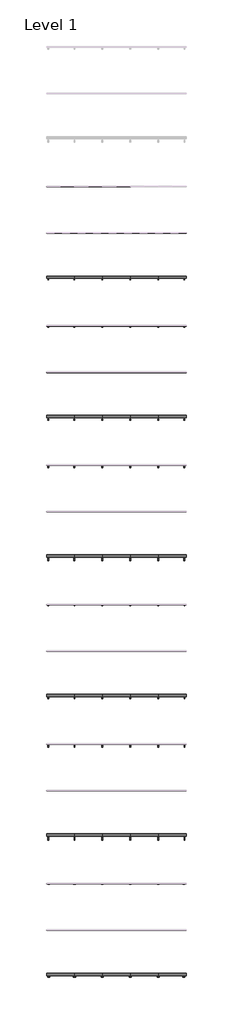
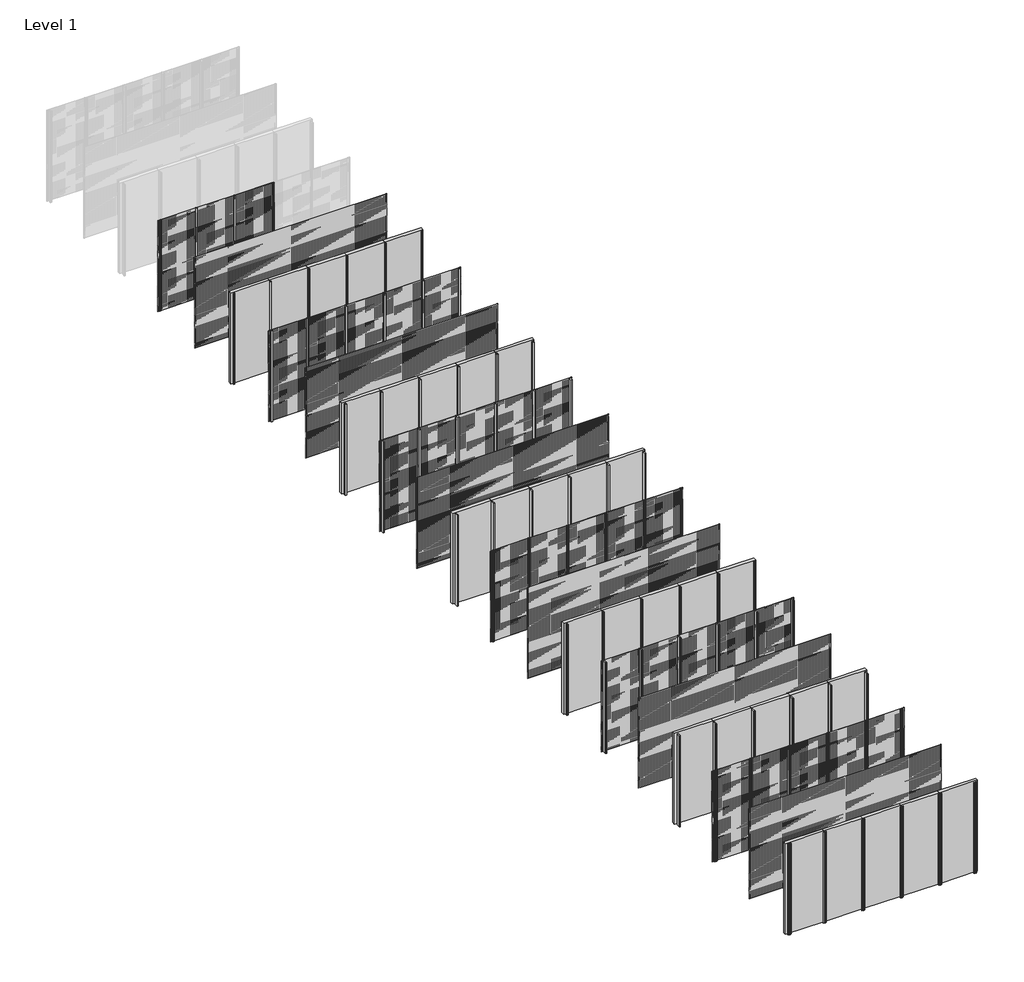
# One storey, part 1 of 77: 70 members, 64 plates.
"""IFC4 building model written with IfcOpenShell, lengths in millimetres."""

from ifc_helpers import new_model, si_unit, origin, origin_with_axes, place, context, project, spatial, polyline, outline, extrude, transform, mapped, element, save
from components import rectangular_mullion_3facce28, rectangular_mullion_6cf2c509, rectangular_mullion_8b77bd57, rectangular_mullion_2c867e25, rectangular_mullion_7803f5c4, rectangular_mullion_82152e2f, rectangular_mullion_2b84ad7e, rectangular_mullion_0fd695e7, rectangular_mullion_9b796d85, rectangular_mullion_dfb17e98, rectangular_mullion_6132f1f1, rectangular_mullion_8f153c19, rectangular_mullion_5b30f3fd, rectangular_mullion_5e0e8e0a, rectangular_mullion_d2d38772, rectangular_mullion_efb80f74, rectangular_mullion_aaa1fb1b, rectangular_mullion_ea9d012c, empty_system_panel_empty_aabbdda4

model = new_model("IFC4")

# Units and contexts
model_context = context("Model", 3, world=origin())
ifc_project = project(units=[si_unit("LENGTHUNIT", "METRE", prefix="MILLI")], contexts=[model_context])

# Site, building, storey
site = spatial("IfcSite", under=ifc_project)
building = spatial("IfcBuilding", under=site)
storey = spatial("IfcBuildingStorey", under=building, Name="Level 1", Elevation=0.0)

# Members
placement = place(None, origin())
rectangular_mullion_shape = rectangular_mullion_3facce28(model_context)
element("IfcMember", 1, ObjectType="Rectangular Mullion : NLRS_21_CWM_drager SD.014_Storax", at=placement, inside=storey, context=model_context, shape_type="MappedRepresentation", body=[
    mapped(rectangular_mullion_shape, transform((3600.0, -24000.0, 0.0), x_axis=(-1.0, 0.0, 0.0), y_axis=(0.0, 1.0, 0.0), z_axis=(0.0, 0.0, -1.0))),
])
element("IfcMember", 2, ObjectType="Rectangular Mullion : NLRS_21_CWM_drager SD.014_Storax", at=placement, inside=storey, context=model_context, shape_type="MappedRepresentation", body=[
    mapped(rectangular_mullion_shape, transform((2400.0, -24000.0, 0.0), x_axis=(-1.0, 0.0, 0.0), y_axis=(0.0, 1.0, 0.0), z_axis=(0.0, 0.0, -1.0))),
])
element("IfcMember", 3, ObjectType="Rectangular Mullion : NLRS_21_CWM_drager SD.014_Storax", at=placement, inside=storey, context=model_context, shape_type="MappedRepresentation", body=[
    mapped(rectangular_mullion_shape, transform((1200.0, -24000.0, 0.0), x_axis=(-1.0, 0.0, 0.0), y_axis=(0.0, 1.0, 0.0), z_axis=(0.0, 0.0, -1.0))),
])
element("IfcMember", 4, ObjectType="Rectangular Mullion : NLRS_21_CWM_drager SD.014_Storax", at=placement, inside=storey, context=model_context, shape_type="MappedRepresentation", body=[
    mapped(rectangular_mullion_shape, transform((4800.0, -28000.0, 0.0), x_axis=(-1.0, 0.0, 0.0), y_axis=(0.0, 1.0, 0.0), z_axis=(0.0, 0.0, -1.0))),
])
element("IfcMember", 5, ObjectType="Rectangular Mullion : NLRS_21_CWM_drager SD.014_Storax", at=placement, inside=storey, context=model_context, shape_type="MappedRepresentation", body=[
    mapped(rectangular_mullion_shape, transform((3600.0, -28000.0, 0.0), x_axis=(-1.0, 0.0, 0.0), y_axis=(0.0, 1.0, 0.0), z_axis=(0.0, 0.0, -1.0))),
])
element("IfcMember", 6, ObjectType="Rectangular Mullion : NLRS_21_CWM_drager SD.014_Storax", at=placement, inside=storey, context=model_context, shape_type="MappedRepresentation", body=[
    mapped(rectangular_mullion_shape, transform((2400.0, -28000.0, 0.0), x_axis=(-1.0, 0.0, 0.0), y_axis=(0.0, 1.0, 0.0), z_axis=(0.0, 0.0, -1.0))),
])
element("IfcMember", 7, ObjectType="Rectangular Mullion : NLRS_21_CWM_drager SD.014_Storax", at=placement, inside=storey, context=model_context, shape_type="MappedRepresentation", body=[
    mapped(rectangular_mullion_shape, transform((1200.0, -28000.0, 0.0), x_axis=(-1.0, 0.0, 0.0), y_axis=(0.0, 1.0, 0.0), z_axis=(0.0, 0.0, -1.0))),
])
rectangular_mullion_2_shape = rectangular_mullion_6cf2c509(model_context)
element("IfcMember", 8, ObjectType="Rectangular Mullion : NLRS_21_CWM_drager SD.054_Storax", at=placement, inside=storey, context=model_context, shape_type="MappedRepresentation", body=[
    mapped(rectangular_mullion_2_shape, transform((4800.0, -30000.0, 0.0), x_axis=(-1.0, 0.0, 0.0), y_axis=(0.0, 1.0, 0.0), z_axis=(0.0, 0.0, -1.0))),
])
element("IfcMember", 9, ObjectType="Rectangular Mullion : NLRS_21_CWM_drager SD.054_Storax", at=placement, inside=storey, context=model_context, shape_type="MappedRepresentation", body=[
    mapped(rectangular_mullion_2_shape, transform((3600.0, -30000.0, 0.0), x_axis=(-1.0, 0.0, 0.0), y_axis=(0.0, 1.0, 0.0), z_axis=(0.0, 0.0, -1.0))),
])
element("IfcMember", 10, ObjectType="Rectangular Mullion : NLRS_21_CWM_drager SD.054_Storax", at=placement, inside=storey, context=model_context, shape_type="MappedRepresentation", body=[
    mapped(rectangular_mullion_2_shape, transform((2400.0, -30000.0, 0.0), x_axis=(-1.0, 0.0, 0.0), y_axis=(0.0, 1.0, 0.0), z_axis=(0.0, 0.0, -1.0))),
])
element("IfcMember", 11, ObjectType="Rectangular Mullion : NLRS_21_CWM_drager SD.054_Storax", at=placement, inside=storey, context=model_context, shape_type="MappedRepresentation", body=[
    mapped(rectangular_mullion_2_shape, transform((1200.0, -30000.0, 0.0), x_axis=(-1.0, 0.0, 0.0), y_axis=(0.0, 1.0, 0.0), z_axis=(0.0, 0.0, -1.0))),
])
element("IfcMember", 12, ObjectType="Rectangular Mullion : NLRS_21_CWM_drager SD.054_Storax", at=placement, inside=storey, context=model_context, shape_type="MappedRepresentation", body=[
    mapped(rectangular_mullion_2_shape, transform((4800.0, -34000.0, 0.0), x_axis=(-1.0, 0.0, 0.0), y_axis=(0.0, 1.0, 0.0), z_axis=(0.0, 0.0, -1.0))),
])
element("IfcMember", 13, ObjectType="Rectangular Mullion : NLRS_21_CWM_drager SD.054_Storax", at=placement, inside=storey, context=model_context, shape_type="MappedRepresentation", body=[
    mapped(rectangular_mullion_2_shape, transform((3600.0, -34000.0, 0.0), x_axis=(-1.0, 0.0, 0.0), y_axis=(0.0, 1.0, 0.0), z_axis=(0.0, 0.0, -1.0))),
])
element("IfcMember", 14, ObjectType="Rectangular Mullion : NLRS_21_CWM_drager SD.054_Storax", at=placement, inside=storey, context=model_context, shape_type="MappedRepresentation", body=[
    mapped(rectangular_mullion_2_shape, transform((2400.0, -34000.0, 0.0), x_axis=(-1.0, 0.0, 0.0), y_axis=(0.0, 1.0, 0.0), z_axis=(0.0, 0.0, -1.0))),
])
element("IfcMember", 15, ObjectType="Rectangular Mullion : NLRS_21_CWM_drager SD.054_Storax", at=placement, inside=storey, context=model_context, shape_type="MappedRepresentation", body=[
    mapped(rectangular_mullion_2_shape, transform((1200.0, -34000.0, 0.0), x_axis=(-1.0, 0.0, 0.0), y_axis=(0.0, 1.0, 0.0), z_axis=(0.0, 0.0, -1.0))),
])
rectangular_mullion_3_shape = rectangular_mullion_8b77bd57(model_context)
element("IfcMember", 16, ObjectType="Rectangular Mullion : NLRS_21_CWM_drager SD.100_Storax", at=placement, inside=storey, context=model_context, shape_type="MappedRepresentation", body=[
    mapped(rectangular_mullion_3_shape, transform((4800.0, -36000.0, 0.0), x_axis=(-1.0, 0.0, 0.0), y_axis=(0.0, 1.0, 0.0), z_axis=(0.0, 0.0, -1.0))),
])
element("IfcMember", 17, ObjectType="Rectangular Mullion : NLRS_21_CWM_drager SD.100_Storax", at=placement, inside=storey, context=model_context, shape_type="MappedRepresentation", body=[
    mapped(rectangular_mullion_3_shape, transform((3600.0, -36000.0, 0.0), x_axis=(-1.0, 0.0, 0.0), y_axis=(0.0, 1.0, 0.0), z_axis=(0.0, 0.0, -1.0))),
])
element("IfcMember", 18, ObjectType="Rectangular Mullion : NLRS_21_CWM_drager SD.100_Storax", at=placement, inside=storey, context=model_context, shape_type="MappedRepresentation", body=[
    mapped(rectangular_mullion_3_shape, transform((2400.0, -36000.0, 0.0), x_axis=(-1.0, 0.0, 0.0), y_axis=(0.0, 1.0, 0.0), z_axis=(0.0, 0.0, -1.0))),
])
element("IfcMember", 19, ObjectType="Rectangular Mullion : NLRS_21_CWM_drager SD.100_Storax", at=placement, inside=storey, context=model_context, shape_type="MappedRepresentation", body=[
    mapped(rectangular_mullion_3_shape, transform((1200.0, -36000.0, 0.0), x_axis=(-1.0, 0.0, 0.0), y_axis=(0.0, 1.0, 0.0), z_axis=(0.0, 0.0, -1.0))),
])
element("IfcMember", 20, ObjectType="Rectangular Mullion : NLRS_21_CWM_drager SD.100_Storax", at=placement, inside=storey, context=model_context, shape_type="MappedRepresentation", body=[
    mapped(rectangular_mullion_3_shape, transform((4800.0, -40000.0, 0.0), x_axis=(-1.0, 0.0, 0.0), y_axis=(0.0, 1.0, 0.0), z_axis=(0.0, 0.0, -1.0))),
])
element("IfcMember", 21, ObjectType="Rectangular Mullion : NLRS_21_CWM_drager SD.100_Storax", at=placement, inside=storey, context=model_context, shape_type="MappedRepresentation", body=[
    mapped(rectangular_mullion_3_shape, transform((3600.0, -40000.0, 0.0), x_axis=(-1.0, 0.0, 0.0), y_axis=(0.0, 1.0, 0.0), z_axis=(0.0, 0.0, -1.0))),
])
element("IfcMember", 22, ObjectType="Rectangular Mullion : NLRS_21_CWM_drager SD.100_Storax", at=placement, inside=storey, context=model_context, shape_type="MappedRepresentation", body=[
    mapped(rectangular_mullion_3_shape, transform((2400.0, -40000.0, 0.0), x_axis=(-1.0, 0.0, 0.0), y_axis=(0.0, 1.0, 0.0), z_axis=(0.0, 0.0, -1.0))),
])
element("IfcMember", 23, ObjectType="Rectangular Mullion : NLRS_21_CWM_drager SD.100_Storax", at=placement, inside=storey, context=model_context, shape_type="MappedRepresentation", body=[
    mapped(rectangular_mullion_3_shape, transform((1200.0, -40000.0, 0.0), x_axis=(-1.0, 0.0, 0.0), y_axis=(0.0, 1.0, 0.0), z_axis=(0.0, 0.0, -1.0))),
])
rectangular_mullion_4_shape = rectangular_mullion_2c867e25(model_context)
element("IfcMember", 24, ObjectType="Rectangular Mullion : NLRS_21_CWM_drager LD.0440_Storax", at=placement, inside=storey, context=model_context, shape_type="MappedRepresentation", body=[
    mapped(rectangular_mullion_4_shape, transform((4800.0, -42000.0, 0.0), x_axis=(-1.0, 0.0, 0.0), y_axis=(0.0, 1.0, 0.0), z_axis=(0.0, 0.0, -1.0))),
])
element("IfcMember", 25, ObjectType="Rectangular Mullion : NLRS_21_CWM_drager LD.0440_Storax", at=placement, inside=storey, context=model_context, shape_type="MappedRepresentation", body=[
    mapped(rectangular_mullion_4_shape, transform((3600.0, -42000.0, 0.0), x_axis=(-1.0, 0.0, 0.0), y_axis=(0.0, 1.0, 0.0), z_axis=(0.0, 0.0, -1.0))),
])
element("IfcMember", 26, ObjectType="Rectangular Mullion : NLRS_21_CWM_drager LD.0440_Storax", at=placement, inside=storey, context=model_context, shape_type="MappedRepresentation", body=[
    mapped(rectangular_mullion_4_shape, transform((2400.0, -42000.0, 0.0), x_axis=(-1.0, 0.0, 0.0), y_axis=(0.0, 1.0, 0.0), z_axis=(0.0, 0.0, -1.0))),
])
element("IfcMember", 27, ObjectType="Rectangular Mullion : NLRS_21_CWM_drager LD.0440_Storax", at=placement, inside=storey, context=model_context, shape_type="MappedRepresentation", body=[
    mapped(rectangular_mullion_4_shape, transform((1200.0, -42000.0, 0.0), x_axis=(-1.0, 0.0, 0.0), y_axis=(0.0, 1.0, 0.0), z_axis=(0.0, 0.0, -1.0))),
])
element("IfcMember", 28, ObjectType="Rectangular Mullion : NLRS_21_CWM_drager LD.0440_Storax", at=placement, inside=storey, context=model_context, shape_type="MappedRepresentation", body=[
    mapped(rectangular_mullion_4_shape, transform((4800.0, -46000.0, 0.0), x_axis=(-1.0, 0.0, 0.0), y_axis=(0.0, 1.0, 0.0), z_axis=(0.0, 0.0, -1.0))),
])
element("IfcMember", 29, ObjectType="Rectangular Mullion : NLRS_21_CWM_drager LD.0440_Storax", at=placement, inside=storey, context=model_context, shape_type="MappedRepresentation", body=[
    mapped(rectangular_mullion_4_shape, transform((3600.0, -46000.0, 0.0), x_axis=(-1.0, 0.0, 0.0), y_axis=(0.0, 1.0, 0.0), z_axis=(0.0, 0.0, -1.0))),
])
element("IfcMember", 30, ObjectType="Rectangular Mullion : NLRS_21_CWM_drager LD.0440_Storax", at=placement, inside=storey, context=model_context, shape_type="MappedRepresentation", body=[
    mapped(rectangular_mullion_4_shape, transform((2400.0, -46000.0, 0.0), x_axis=(-1.0, 0.0, 0.0), y_axis=(0.0, 1.0, 0.0), z_axis=(0.0, 0.0, -1.0))),
])
element("IfcMember", 31, ObjectType="Rectangular Mullion : NLRS_21_CWM_drager LD.0440_Storax", at=placement, inside=storey, context=model_context, shape_type="MappedRepresentation", body=[
    mapped(rectangular_mullion_4_shape, transform((1200.0, -46000.0, 0.0), x_axis=(-1.0, 0.0, 0.0), y_axis=(0.0, 1.0, 0.0), z_axis=(0.0, 0.0, -1.0))),
])
rectangular_mullion_5_shape = rectangular_mullion_7803f5c4(model_context)
element("IfcMember", 32, ObjectType="Rectangular Mullion : NLRS_21_CWM_drager LD.1250_Storax", at=placement, inside=storey, context=model_context, shape_type="MappedRepresentation", body=[
    mapped(rectangular_mullion_5_shape, transform((4800.0, -48000.0, 0.0), x_axis=(-1.0, 0.0, 0.0), y_axis=(0.0, 1.0, 0.0), z_axis=(0.0, 0.0, -1.0))),
])
element("IfcMember", 33, ObjectType="Rectangular Mullion : NLRS_21_CWM_drager LD.1250_Storax", at=placement, inside=storey, context=model_context, shape_type="MappedRepresentation", body=[
    mapped(rectangular_mullion_5_shape, transform((3600.0, -48000.0, 0.0), x_axis=(-1.0, 0.0, 0.0), y_axis=(0.0, 1.0, 0.0), z_axis=(0.0, 0.0, -1.0))),
])
element("IfcMember", 34, ObjectType="Rectangular Mullion : NLRS_21_CWM_drager LD.1250_Storax", at=placement, inside=storey, context=model_context, shape_type="MappedRepresentation", body=[
    mapped(rectangular_mullion_5_shape, transform((2400.0, -48000.0, 0.0), x_axis=(-1.0, 0.0, 0.0), y_axis=(0.0, 1.0, 0.0), z_axis=(0.0, 0.0, -1.0))),
])
element("IfcMember", 35, ObjectType="Rectangular Mullion : NLRS_21_CWM_drager LD.1250_Storax", at=placement, inside=storey, context=model_context, shape_type="MappedRepresentation", body=[
    mapped(rectangular_mullion_5_shape, transform((1200.0, -48000.0, 0.0), x_axis=(-1.0, 0.0, 0.0), y_axis=(0.0, 1.0, 0.0), z_axis=(0.0, 0.0, -1.0))),
])
element("IfcMember", 36, ObjectType="Rectangular Mullion : NLRS_21_CWM_drager LD.1250_Storax", at=placement, inside=storey, context=model_context, shape_type="MappedRepresentation", body=[
    mapped(rectangular_mullion_5_shape, transform((4800.0, -52000.0, 0.0), x_axis=(-1.0, 0.0, 0.0), y_axis=(0.0, 1.0, 0.0), z_axis=(0.0, 0.0, -1.0))),
])
element("IfcMember", 37, ObjectType="Rectangular Mullion : NLRS_21_CWM_drager LD.1250_Storax", at=placement, inside=storey, context=model_context, shape_type="MappedRepresentation", body=[
    mapped(rectangular_mullion_5_shape, transform((3600.0, -52000.0, 0.0), x_axis=(-1.0, 0.0, 0.0), y_axis=(0.0, 1.0, 0.0), z_axis=(0.0, 0.0, -1.0))),
])
element("IfcMember", 38, ObjectType="Rectangular Mullion : NLRS_21_CWM_drager LD.1250_Storax", at=placement, inside=storey, context=model_context, shape_type="MappedRepresentation", body=[
    mapped(rectangular_mullion_5_shape, transform((2400.0, -52000.0, 0.0), x_axis=(-1.0, 0.0, 0.0), y_axis=(0.0, 1.0, 0.0), z_axis=(0.0, 0.0, -1.0))),
])
element("IfcMember", 39, ObjectType="Rectangular Mullion : NLRS_21_CWM_drager LD.1250_Storax", at=placement, inside=storey, context=model_context, shape_type="MappedRepresentation", body=[
    mapped(rectangular_mullion_5_shape, transform((1200.0, -52000.0, 0.0), x_axis=(-1.0, 0.0, 0.0), y_axis=(0.0, 1.0, 0.0), z_axis=(0.0, 0.0, -1.0))),
])
rectangular_mullion_6_shape = rectangular_mullion_82152e2f(model_context)
element("IfcMember", 40, ObjectType="Rectangular Mullion : NLRS_21_CWM_drager LD.0240_Storax", at=placement, inside=storey, context=model_context, shape_type="MappedRepresentation", body=[
    mapped(rectangular_mullion_6_shape, transform((4800.0, -54000.0, 0.0), x_axis=(-1.0, 0.0, 0.0), y_axis=(0.0, 1.0, 0.0), z_axis=(0.0, 0.0, -1.0))),
])
element("IfcMember", 41, ObjectType="Rectangular Mullion : NLRS_21_CWM_drager LD.0240_Storax", at=placement, inside=storey, context=model_context, shape_type="MappedRepresentation", body=[
    mapped(rectangular_mullion_6_shape, transform((3600.0, -54000.0, 0.0), x_axis=(-1.0, 0.0, 0.0), y_axis=(0.0, 1.0, 0.0), z_axis=(0.0, 0.0, -1.0))),
])
element("IfcMember", 42, ObjectType="Rectangular Mullion : NLRS_21_CWM_drager LD.0240_Storax", at=placement, inside=storey, context=model_context, shape_type="MappedRepresentation", body=[
    mapped(rectangular_mullion_6_shape, transform((2400.0, -54000.0, 0.0), x_axis=(-1.0, 0.0, 0.0), y_axis=(0.0, 1.0, 0.0), z_axis=(0.0, 0.0, -1.0))),
])
element("IfcMember", 43, ObjectType="Rectangular Mullion : NLRS_21_CWM_drager LD.0240_Storax", at=placement, inside=storey, context=model_context, shape_type="MappedRepresentation", body=[
    mapped(rectangular_mullion_6_shape, transform((1200.0, -54000.0, 0.0), x_axis=(-1.0, 0.0, 0.0), y_axis=(0.0, 1.0, 0.0), z_axis=(0.0, 0.0, -1.0))),
])
element("IfcMember", 44, ObjectType="Rectangular Mullion : NLRS_21_CWM_drager LD.0240_Storax", at=placement, inside=storey, context=model_context, shape_type="MappedRepresentation", body=[
    mapped(rectangular_mullion_6_shape, transform((4800.0, -58000.0, 0.0), x_axis=(-1.0, 0.0, 0.0), y_axis=(0.0, 1.0, 0.0), z_axis=(0.0, 0.0, -1.0))),
])
element("IfcMember", 45, ObjectType="Rectangular Mullion : NLRS_21_CWM_drager LD.0240_Storax", at=placement, inside=storey, context=model_context, shape_type="MappedRepresentation", body=[
    mapped(rectangular_mullion_6_shape, transform((3600.0, -58000.0, 0.0), x_axis=(-1.0, 0.0, 0.0), y_axis=(0.0, 1.0, 0.0), z_axis=(0.0, 0.0, -1.0))),
])
element("IfcMember", 46, ObjectType="Rectangular Mullion : NLRS_21_CWM_drager LD.0240_Storax", at=placement, inside=storey, context=model_context, shape_type="MappedRepresentation", body=[
    mapped(rectangular_mullion_6_shape, transform((2400.0, -58000.0, 0.0), x_axis=(-1.0, 0.0, 0.0), y_axis=(0.0, 1.0, 0.0), z_axis=(0.0, 0.0, -1.0))),
])
element("IfcMember", 47, ObjectType="Rectangular Mullion : NLRS_21_CWM_drager LD.0240_Storax", at=placement, inside=storey, context=model_context, shape_type="MappedRepresentation", body=[
    mapped(rectangular_mullion_6_shape, transform((1200.0, -58000.0, 0.0), x_axis=(-1.0, 0.0, 0.0), y_axis=(0.0, 1.0, 0.0), z_axis=(0.0, 0.0, -1.0))),
])
rectangular_mullion_7_shape = rectangular_mullion_2b84ad7e(model_context)
element("IfcMember", 48, ObjectType="Rectangular Mullion : NLRS_21_CWM_drager SD.014 - links_Storax", at=placement, inside=storey, context=model_context, shape_type="MappedRepresentation", body=[
    mapped(rectangular_mullion_7_shape, transform((0.0, -24000.0, 0.0), x_axis=(-1.0, 0.0, 0.0), y_axis=(0.0, 1.0, 0.0), z_axis=(0.0, 0.0, -1.0))),
])
element("IfcMember", 49, ObjectType="Rectangular Mullion : NLRS_21_CWM_drager SD.014 - links_Storax", at=placement, inside=storey, context=model_context, shape_type="MappedRepresentation", body=[
    mapped(rectangular_mullion_7_shape, transform((0.0, -28000.0, 0.0), x_axis=(-1.0, 0.0, 0.0), y_axis=(0.0, 1.0, 0.0), z_axis=(0.0, 0.0, -1.0))),
])
rectangular_mullion_8_shape = rectangular_mullion_0fd695e7(model_context)
element("IfcMember", 50, ObjectType="Rectangular Mullion : NLRS_21_CWM_drager SD.014 - rechts_Storax", at=placement, inside=storey, context=model_context, shape_type="MappedRepresentation", body=[
    mapped(rectangular_mullion_8_shape, transform((6000.0, -28000.0, 3000.0), x_axis=(1.0, 0.0, 0.0), y_axis=(0.0, 1.0, 0.0), z_axis=(0.0, 0.0, 1.0))),
])
rectangular_mullion_9_shape = rectangular_mullion_9b796d85(model_context)
element("IfcMember", 51, ObjectType="Rectangular Mullion : NLRS_21_CWM_drager SD.054 - links_Storax", at=placement, inside=storey, context=model_context, shape_type="MappedRepresentation", body=[
    mapped(rectangular_mullion_9_shape, transform((0.0, -30000.0, 0.0), x_axis=(-1.0, 0.0, 0.0), y_axis=(0.0, 1.0, 0.0), z_axis=(0.0, 0.0, -1.0))),
])
element("IfcMember", 52, ObjectType="Rectangular Mullion : NLRS_21_CWM_drager SD.054 - links_Storax", at=placement, inside=storey, context=model_context, shape_type="MappedRepresentation", body=[
    mapped(rectangular_mullion_9_shape, transform((0.0, -34000.0, 0.0), x_axis=(-1.0, 0.0, 0.0), y_axis=(0.0, 1.0, 0.0), z_axis=(0.0, 0.0, -1.0))),
])
rectangular_mullion_10_shape = rectangular_mullion_dfb17e98(model_context)
element("IfcMember", 53, ObjectType="Rectangular Mullion : NLRS_21_CWM_drager SD.054 - rechts_Storax", at=placement, inside=storey, context=model_context, shape_type="MappedRepresentation", body=[
    mapped(rectangular_mullion_10_shape, transform((6000.0, -30000.0, 3000.0), x_axis=(1.0, 0.0, 0.0), y_axis=(0.0, 1.0, 0.0), z_axis=(0.0, 0.0, 1.0))),
])
element("IfcMember", 54, ObjectType="Rectangular Mullion : NLRS_21_CWM_drager SD.054 - rechts_Storax", at=placement, inside=storey, context=model_context, shape_type="MappedRepresentation", body=[
    mapped(rectangular_mullion_10_shape, transform((6000.0, -34000.0, 3000.0), x_axis=(1.0, 0.0, 0.0), y_axis=(0.0, 1.0, 0.0), z_axis=(0.0, 0.0, 1.0))),
])
rectangular_mullion_11_shape = rectangular_mullion_6132f1f1(model_context)
element("IfcMember", 55, ObjectType="Rectangular Mullion : NLRS_21_CWM_drager SD.100 - links_Storax", at=placement, inside=storey, context=model_context, shape_type="MappedRepresentation", body=[
    mapped(rectangular_mullion_11_shape, transform((0.0, -36000.0, 0.0), x_axis=(-1.0, 0.0, 0.0), y_axis=(0.0, 1.0, 0.0), z_axis=(0.0, 0.0, -1.0))),
])
element("IfcMember", 56, ObjectType="Rectangular Mullion : NLRS_21_CWM_drager SD.100 - links_Storax", at=placement, inside=storey, context=model_context, shape_type="MappedRepresentation", body=[
    mapped(rectangular_mullion_11_shape, transform((0.0, -40000.0, 0.0), x_axis=(-1.0, 0.0, 0.0), y_axis=(0.0, 1.0, 0.0), z_axis=(0.0, 0.0, -1.0))),
])
rectangular_mullion_12_shape = rectangular_mullion_8f153c19(model_context)
element("IfcMember", 57, ObjectType="Rectangular Mullion : NLRS_21_CWM_drager SD.100 - rechts_Storax", at=placement, inside=storey, context=model_context, shape_type="MappedRepresentation", body=[
    mapped(rectangular_mullion_12_shape, transform((6000.0, -36000.0, 3000.0), x_axis=(1.0, 0.0, 0.0), y_axis=(0.0, 1.0, 0.0), z_axis=(0.0, 0.0, 1.0))),
])
element("IfcMember", 58, ObjectType="Rectangular Mullion : NLRS_21_CWM_drager SD.100 - rechts_Storax", at=placement, inside=storey, context=model_context, shape_type="MappedRepresentation", body=[
    mapped(rectangular_mullion_12_shape, transform((6000.0, -40000.0, 3000.0), x_axis=(1.0, 0.0, 0.0), y_axis=(0.0, 1.0, 0.0), z_axis=(0.0, 0.0, 1.0))),
])
rectangular_mullion_13_shape = rectangular_mullion_5b30f3fd(model_context)
element("IfcMember", 59, ObjectType="Rectangular Mullion : NLRS_21_CWM_drager LD.0440 - links_Storax", at=placement, inside=storey, context=model_context, shape_type="MappedRepresentation", body=[
    mapped(rectangular_mullion_13_shape, transform((0.0, -42000.0, 0.0), x_axis=(-1.0, 0.0, 0.0), y_axis=(0.0, 1.0, 0.0), z_axis=(0.0, 0.0, -1.0))),
])
element("IfcMember", 60, ObjectType="Rectangular Mullion : NLRS_21_CWM_drager LD.0440 - links_Storax", at=placement, inside=storey, context=model_context, shape_type="MappedRepresentation", body=[
    mapped(rectangular_mullion_13_shape, transform((0.0, -46000.0, 0.0), x_axis=(-1.0, 0.0, 0.0), y_axis=(0.0, 1.0, 0.0), z_axis=(0.0, 0.0, -1.0))),
])
rectangular_mullion_14_shape = rectangular_mullion_5e0e8e0a(model_context)
element("IfcMember", 61, ObjectType="Rectangular Mullion : NLRS_21_CWM_drager LD.0440 - rechts_Storax", at=placement, inside=storey, context=model_context, shape_type="MappedRepresentation", body=[
    mapped(rectangular_mullion_14_shape, transform((6000.0, -42000.0, 3000.0), x_axis=(1.0, 0.0, 0.0), y_axis=(0.0, 1.0, 0.0), z_axis=(0.0, 0.0, 1.0))),
])
element("IfcMember", 62, ObjectType="Rectangular Mullion : NLRS_21_CWM_drager LD.0440 - rechts_Storax", at=placement, inside=storey, context=model_context, shape_type="MappedRepresentation", body=[
    mapped(rectangular_mullion_14_shape, transform((6000.0, -46000.0, 3000.0), x_axis=(1.0, 0.0, 0.0), y_axis=(0.0, 1.0, 0.0), z_axis=(0.0, 0.0, 1.0))),
])
rectangular_mullion_15_shape = rectangular_mullion_d2d38772(model_context)
element("IfcMember", 63, ObjectType="Rectangular Mullion : NLRS_21_CWM_drager LD.1250 - links_Storax", at=placement, inside=storey, context=model_context, shape_type="MappedRepresentation", body=[
    mapped(rectangular_mullion_15_shape, transform((0.0, -48000.0, 0.0), x_axis=(-1.0, 0.0, 0.0), y_axis=(0.0, 1.0, 0.0), z_axis=(0.0, 0.0, -1.0))),
])
element("IfcMember", 64, ObjectType="Rectangular Mullion : NLRS_21_CWM_drager LD.1250 - links_Storax", at=placement, inside=storey, context=model_context, shape_type="MappedRepresentation", body=[
    mapped(rectangular_mullion_15_shape, transform((0.0, -52000.0, 0.0), x_axis=(-1.0, 0.0, 0.0), y_axis=(0.0, 1.0, 0.0), z_axis=(0.0, 0.0, -1.0))),
])
rectangular_mullion_16_shape = rectangular_mullion_efb80f74(model_context)
element("IfcMember", 65, ObjectType="Rectangular Mullion : NLRS_21_CWM_drager LD.1250 - rechts_Storax", at=placement, inside=storey, context=model_context, shape_type="MappedRepresentation", body=[
    mapped(rectangular_mullion_16_shape, transform((6000.0, -48000.0, 3000.0), x_axis=(1.0, 0.0, 0.0), y_axis=(0.0, 1.0, 0.0), z_axis=(0.0, 0.0, 1.0))),
])
element("IfcMember", 66, ObjectType="Rectangular Mullion : NLRS_21_CWM_drager LD.1250 - rechts_Storax", at=placement, inside=storey, context=model_context, shape_type="MappedRepresentation", body=[
    mapped(rectangular_mullion_16_shape, transform((6000.0, -52000.0, 3000.0), x_axis=(1.0, 0.0, 0.0), y_axis=(0.0, 1.0, 0.0), z_axis=(0.0, 0.0, 1.0))),
])
rectangular_mullion_17_shape = rectangular_mullion_aaa1fb1b(model_context)
element("IfcMember", 67, ObjectType="Rectangular Mullion : NLRS_21_CWM_drager LD.0240 - links_Storax", at=placement, inside=storey, context=model_context, shape_type="MappedRepresentation", body=[
    mapped(rectangular_mullion_17_shape, transform((0.0, -54000.0, 0.0), x_axis=(-1.0, 0.0, 0.0), y_axis=(0.0, 1.0, 0.0), z_axis=(0.0, 0.0, -1.0))),
])
element("IfcMember", 68, ObjectType="Rectangular Mullion : NLRS_21_CWM_drager LD.0240 - links_Storax", at=placement, inside=storey, context=model_context, shape_type="MappedRepresentation", body=[
    mapped(rectangular_mullion_17_shape, transform((0.0, -58000.0, 0.0), x_axis=(-1.0, 0.0, 0.0), y_axis=(0.0, 1.0, 0.0), z_axis=(0.0, 0.0, -1.0))),
])
rectangular_mullion_18_shape = rectangular_mullion_ea9d012c(model_context)
element("IfcMember", 69, ObjectType="Rectangular Mullion : NLRS_21_CWM_drager LD.0240 - rechts_Storax", at=placement, inside=storey, context=model_context, shape_type="MappedRepresentation", body=[
    mapped(rectangular_mullion_18_shape, transform((6000.0, -54000.0, 3000.0), x_axis=(1.0, 0.0, 0.0), y_axis=(0.0, 1.0, 0.0), z_axis=(0.0, 0.0, 1.0))),
])
element("IfcMember", 70, ObjectType="Rectangular Mullion : NLRS_21_CWM_drager LD.0240 - rechts_Storax", at=placement, inside=storey, context=model_context, shape_type="MappedRepresentation", body=[
    mapped(rectangular_mullion_18_shape, transform((6000.0, -58000.0, 3000.0), x_axis=(1.0, 0.0, 0.0), y_axis=(0.0, 1.0, 0.0), z_axis=(0.0, 0.0, 1.0))),
])

# Plates
element("IfcPlate", 71, ObjectType="NLRS_21_WA_lamellenwand Linius - L.033IM1_Storax", at=placement, inside=storey, context=model_context, shape_type="SweptSolid", body=[
    extrude(outline(polyline([(0.0, -23999.0), (1200.0, -23999.0), (1200.0, -24001.0), (0.0, -24001.0), (0.0, -23999.0)])), origin_with_axes(), (0.0, 0.0, 1.0), 3000.0),
])
element("IfcPlate", 72, ObjectType="NLRS_21_WA_lamellenwand Linius - L.033IM1_Storax", at=placement, inside=storey, context=model_context, shape_type="SweptSolid", body=[
    extrude(outline(polyline([(1200.0, -23999.0), (2400.0, -23999.0), (2400.0, -24001.0), (1200.0, -24001.0), (1200.0, -23999.0)])), origin_with_axes(), (0.0, 0.0, 1.0), 3000.0),
])
element("IfcPlate", 73, ObjectType="NLRS_21_WA_lamellenwand Linius - L.033IM1_Storax", at=placement, inside=storey, context=model_context, shape_type="SweptSolid", body=[
    extrude(outline(polyline([(2400.0, -23999.0), (3600.0, -23999.0), (3600.0, -24001.0), (2400.0, -24001.0), (2400.0, -23999.0)])), origin_with_axes(), (0.0, 0.0, 1.0), 3000.0),
])
element("IfcPlate", 74, ObjectType="NLRS_21_WA_lamellenwand Linius - L.033IM1_Storax", at=placement, inside=storey, context=model_context, shape_type="SweptSolid", body=[
    extrude(outline(polyline([(0.0, -25999.0), (6000.0, -25999.0), (6000.0, -26001.0), (0.0, -26001.0), (0.0, -25999.0)])), origin_with_axes(), (0.0, 0.0, 1.0), 3000.0),
])
element("IfcPlate", 75, ObjectType="NLRS_21_WA_lamellenwand Linius - L.033IM1_Storax", at=placement, inside=storey, context=model_context, shape_type="SweptSolid", body=[
    extrude(outline(polyline([(0.0, -29999.0), (1200.0, -29999.0), (1200.0, -30001.0), (0.0, -30001.0), (0.0, -29999.0)])), origin_with_axes(), (0.0, 0.0, 1.0), 3000.0),
])
element("IfcPlate", 76, ObjectType="NLRS_21_WA_lamellenwand Linius - L.033IM1_Storax", at=placement, inside=storey, context=model_context, shape_type="SweptSolid", body=[
    extrude(outline(polyline([(1200.0, -29999.0), (2400.0, -29999.0), (2400.0, -30001.0), (1200.0, -30001.0), (1200.0, -29999.0)])), origin_with_axes(), (0.0, 0.0, 1.0), 3000.0),
])
element("IfcPlate", 77, ObjectType="NLRS_21_WA_lamellenwand Linius - L.033IM1_Storax", at=placement, inside=storey, context=model_context, shape_type="SweptSolid", body=[
    extrude(outline(polyline([(2400.0, -29999.0), (3600.0, -29999.0), (3600.0, -30001.0), (2400.0, -30001.0), (2400.0, -29999.0)])), origin_with_axes(), (0.0, 0.0, 1.0), 3000.0),
])
element("IfcPlate", 78, ObjectType="NLRS_21_WA_lamellenwand Linius - L.033IM1_Storax", at=placement, inside=storey, context=model_context, shape_type="SweptSolid", body=[
    extrude(outline(polyline([(3600.0, -29999.0), (4800.0, -29999.0), (4800.0, -30001.0), (3600.0, -30001.0), (3600.0, -29999.0)])), origin_with_axes(), (0.0, 0.0, 1.0), 3000.0),
])
element("IfcPlate", 79, ObjectType="NLRS_21_WA_lamellenwand Linius - L.033IM1_Storax", at=placement, inside=storey, context=model_context, shape_type="SweptSolid", body=[
    extrude(outline(polyline([(4800.0, -29999.0), (6000.0, -29999.0), (6000.0, -30001.0), (4800.0, -30001.0), (4800.0, -29999.0)])), origin_with_axes(), (0.0, 0.0, 1.0), 3000.0),
])
element("IfcPlate", 80, ObjectType="NLRS_21_WA_lamellenwand Linius - L.033IM1_Storax", at=placement, inside=storey, context=model_context, shape_type="SweptSolid", body=[
    extrude(outline(polyline([(0.0, -31999.0), (6000.0, -31999.0), (6000.0, -32001.0), (0.0, -32001.0), (0.0, -31999.0)])), origin_with_axes(), (0.0, 0.0, 1.0), 3000.0),
])
element("IfcPlate", 81, ObjectType="NLRS_21_WA_lamellenwand Linius - L.033IM1_Storax", at=placement, inside=storey, context=model_context, shape_type="SweptSolid", body=[
    extrude(outline(polyline([(0.0, -35999.0), (1200.0, -35999.0), (1200.0, -36001.0), (0.0, -36001.0), (0.0, -35999.0)])), origin_with_axes(), (0.0, 0.0, 1.0), 3000.0),
])
element("IfcPlate", 82, ObjectType="NLRS_21_WA_lamellenwand Linius - L.033IM1_Storax", at=placement, inside=storey, context=model_context, shape_type="SweptSolid", body=[
    extrude(outline(polyline([(1200.0, -35999.0), (2400.0, -35999.0), (2400.0, -36001.0), (1200.0, -36001.0), (1200.0, -35999.0)])), origin_with_axes(), (0.0, 0.0, 1.0), 3000.0),
])
element("IfcPlate", 83, ObjectType="NLRS_21_WA_lamellenwand Linius - L.033IM1_Storax", at=placement, inside=storey, context=model_context, shape_type="SweptSolid", body=[
    extrude(outline(polyline([(2400.0, -35999.0), (3600.0, -35999.0), (3600.0, -36001.0), (2400.0, -36001.0), (2400.0, -35999.0)])), origin_with_axes(), (0.0, 0.0, 1.0), 3000.0),
])
element("IfcPlate", 84, ObjectType="NLRS_21_WA_lamellenwand Linius - L.033IM1_Storax", at=placement, inside=storey, context=model_context, shape_type="SweptSolid", body=[
    extrude(outline(polyline([(3600.0, -35999.0), (4800.0, -35999.0), (4800.0, -36001.0), (3600.0, -36001.0), (3600.0, -35999.0)])), origin_with_axes(), (0.0, 0.0, 1.0), 3000.0),
])
element("IfcPlate", 85, ObjectType="NLRS_21_WA_lamellenwand Linius - L.033IM1_Storax", at=placement, inside=storey, context=model_context, shape_type="SweptSolid", body=[
    extrude(outline(polyline([(4800.0, -35999.0), (6000.0, -35999.0), (6000.0, -36001.0), (4800.0, -36001.0), (4800.0, -35999.0)])), origin_with_axes(), (0.0, 0.0, 1.0), 3000.0),
])
element("IfcPlate", 86, ObjectType="NLRS_21_WA_lamellenwand Linius - L.033IM1_Storax", at=placement, inside=storey, context=model_context, shape_type="SweptSolid", body=[
    extrude(outline(polyline([(0.0, -37999.0), (6000.0, -37999.0), (6000.0, -38001.0), (0.0, -38001.0), (0.0, -37999.0)])), origin_with_axes(), (0.0, 0.0, 1.0), 3000.0),
])
element("IfcPlate", 87, ObjectType="NLRS_21_WA_lamellenwand Linius - L.033IM1_Storax", at=placement, inside=storey, context=model_context, shape_type="SweptSolid", body=[
    extrude(outline(polyline([(0.0, -41999.0), (1200.0, -41999.0), (1200.0, -42001.0), (0.0, -42001.0), (0.0, -41999.0)])), origin_with_axes(), (0.0, 0.0, 1.0), 3000.0),
])
element("IfcPlate", 88, ObjectType="NLRS_21_WA_lamellenwand Linius - L.033IM1_Storax", at=placement, inside=storey, context=model_context, shape_type="SweptSolid", body=[
    extrude(outline(polyline([(1200.0, -41999.0), (2400.0, -41999.0), (2400.0, -42001.0), (1200.0, -42001.0), (1200.0, -41999.0)])), origin_with_axes(), (0.0, 0.0, 1.0), 3000.0),
])
element("IfcPlate", 89, ObjectType="NLRS_21_WA_lamellenwand Linius - L.033IM1_Storax", at=placement, inside=storey, context=model_context, shape_type="SweptSolid", body=[
    extrude(outline(polyline([(2400.0, -41999.0), (3600.0, -41999.0), (3600.0, -42001.0), (2400.0, -42001.0), (2400.0, -41999.0)])), origin_with_axes(), (0.0, 0.0, 1.0), 3000.0),
])
element("IfcPlate", 90, ObjectType="NLRS_21_WA_lamellenwand Linius - L.033IM1_Storax", at=placement, inside=storey, context=model_context, shape_type="SweptSolid", body=[
    extrude(outline(polyline([(3600.0, -41999.0), (4800.0, -41999.0), (4800.0, -42001.0), (3600.0, -42001.0), (3600.0, -41999.0)])), origin_with_axes(), (0.0, 0.0, 1.0), 3000.0),
])
element("IfcPlate", 91, ObjectType="NLRS_21_WA_lamellenwand Linius - L.033IM1_Storax", at=placement, inside=storey, context=model_context, shape_type="SweptSolid", body=[
    extrude(outline(polyline([(4800.0, -41999.0), (6000.0, -41999.0), (6000.0, -42001.0), (4800.0, -42001.0), (4800.0, -41999.0)])), origin_with_axes(), (0.0, 0.0, 1.0), 3000.0),
])
element("IfcPlate", 92, ObjectType="NLRS_21_WA_lamellenwand Linius - L.033IM1_Storax", at=placement, inside=storey, context=model_context, shape_type="SweptSolid", body=[
    extrude(outline(polyline([(0.0, -43999.0), (6000.0, -43999.0), (6000.0, -44001.0), (0.0, -44001.0), (0.0, -43999.0)])), origin_with_axes(), (0.0, 0.0, 1.0), 3000.0),
])
element("IfcPlate", 93, ObjectType="NLRS_21_WA_lamellenwand Linius - L.033IM1_Storax", at=placement, inside=storey, context=model_context, shape_type="SweptSolid", body=[
    extrude(outline(polyline([(0.0, -47999.0), (1200.0, -47999.0), (1200.0, -48001.0), (0.0, -48001.0), (0.0, -47999.0)])), origin_with_axes(), (0.0, 0.0, 1.0), 3000.0),
])
element("IfcPlate", 94, ObjectType="NLRS_21_WA_lamellenwand Linius - L.033IM1_Storax", at=placement, inside=storey, context=model_context, shape_type="SweptSolid", body=[
    extrude(outline(polyline([(1200.0, -47999.0), (2400.0, -47999.0), (2400.0, -48001.0), (1200.0, -48001.0), (1200.0, -47999.0)])), origin_with_axes(), (0.0, 0.0, 1.0), 3000.0),
])
element("IfcPlate", 95, ObjectType="NLRS_21_WA_lamellenwand Linius - L.033IM1_Storax", at=placement, inside=storey, context=model_context, shape_type="SweptSolid", body=[
    extrude(outline(polyline([(2400.0, -47999.0), (3600.0, -47999.0), (3600.0, -48001.0), (2400.0, -48001.0), (2400.0, -47999.0)])), origin_with_axes(), (0.0, 0.0, 1.0), 3000.0),
])
element("IfcPlate", 96, ObjectType="NLRS_21_WA_lamellenwand Linius - L.033IM1_Storax", at=placement, inside=storey, context=model_context, shape_type="SweptSolid", body=[
    extrude(outline(polyline([(3600.0, -47999.0), (4800.0, -47999.0), (4800.0, -48001.0), (3600.0, -48001.0), (3600.0, -47999.0)])), origin_with_axes(), (0.0, 0.0, 1.0), 3000.0),
])
element("IfcPlate", 97, ObjectType="NLRS_21_WA_lamellenwand Linius - L.033IM1_Storax", at=placement, inside=storey, context=model_context, shape_type="SweptSolid", body=[
    extrude(outline(polyline([(4800.0, -47999.0), (6000.0, -47999.0), (6000.0, -48001.0), (4800.0, -48001.0), (4800.0, -47999.0)])), origin_with_axes(), (0.0, 0.0, 1.0), 3000.0),
])
element("IfcPlate", 98, ObjectType="NLRS_21_WA_lamellenwand Linius - L.033IM1_Storax", at=placement, inside=storey, context=model_context, shape_type="SweptSolid", body=[
    extrude(outline(polyline([(0.0, -49999.0), (6000.0, -49999.0), (6000.0, -50001.0), (0.0, -50001.0), (0.0, -49999.0)])), origin_with_axes(), (0.0, 0.0, 1.0), 3000.0),
])
element("IfcPlate", 99, ObjectType="NLRS_21_WA_lamellenwand Linius - L.033IM1_Storax", at=placement, inside=storey, context=model_context, shape_type="SweptSolid", body=[
    extrude(outline(polyline([(0.0, -53999.0), (1200.0, -53999.0), (1200.0, -54001.0), (0.0, -54001.0), (0.0, -53999.0)])), origin_with_axes(), (0.0, 0.0, 1.0), 3000.0),
])
element("IfcPlate", 100, ObjectType="NLRS_21_WA_lamellenwand Linius - L.033IM1_Storax", at=placement, inside=storey, context=model_context, shape_type="SweptSolid", body=[
    extrude(outline(polyline([(1200.0, -53999.0), (2400.0, -53999.0), (2400.0, -54001.0), (1200.0, -54001.0), (1200.0, -53999.0)])), origin_with_axes(), (0.0, 0.0, 1.0), 3000.0),
])
element("IfcPlate", 101, ObjectType="NLRS_21_WA_lamellenwand Linius - L.033IM1_Storax", at=placement, inside=storey, context=model_context, shape_type="SweptSolid", body=[
    extrude(outline(polyline([(2400.0, -53999.0), (3600.0, -53999.0), (3600.0, -54001.0), (2400.0, -54001.0), (2400.0, -53999.0)])), origin_with_axes(), (0.0, 0.0, 1.0), 3000.0),
])
element("IfcPlate", 102, ObjectType="NLRS_21_WA_lamellenwand Linius - L.033IM1_Storax", at=placement, inside=storey, context=model_context, shape_type="SweptSolid", body=[
    extrude(outline(polyline([(3600.0, -53999.0), (4800.0, -53999.0), (4800.0, -54001.0), (3600.0, -54001.0), (3600.0, -53999.0)])), origin_with_axes(), (0.0, 0.0, 1.0), 3000.0),
])
element("IfcPlate", 103, ObjectType="NLRS_21_WA_lamellenwand Linius - L.033IM1_Storax", at=placement, inside=storey, context=model_context, shape_type="SweptSolid", body=[
    extrude(outline(polyline([(4800.0, -53999.0), (6000.0, -53999.0), (6000.0, -54001.0), (4800.0, -54001.0), (4800.0, -53999.0)])), origin_with_axes(), (0.0, 0.0, 1.0), 3000.0),
])
element("IfcPlate", 104, ObjectType="NLRS_21_WA_lamellenwand Linius - L.033IM1_Storax", at=placement, inside=storey, context=model_context, shape_type="SweptSolid", body=[
    extrude(outline(polyline([(0.0, -55999.0), (6000.0, -55999.0), (6000.0, -56001.0), (0.0, -56001.0), (0.0, -55999.0)])), origin_with_axes(), (0.0, 0.0, 1.0), 3000.0),
])
empty_system_panel_empty_shape = empty_system_panel_empty_aabbdda4(model_context)
element("IfcPlate", 105, ObjectType="Empty System Panel : Empty", at=placement, inside=storey, context=model_context, shape_type="MappedRepresentation", body=[
    mapped(empty_system_panel_empty_shape, transform((5400.0, -28000.0, 0.0), x_axis=(-1.0, 0.0, 0.0), y_axis=(0.0, -1.0, 0.0), z_axis=(0.0, 0.0, 1.0))),
])
element("IfcPlate", 106, ObjectType="Empty System Panel : Empty", at=placement, inside=storey, context=model_context, shape_type="MappedRepresentation", body=[
    mapped(empty_system_panel_empty_shape, transform((5400.0, -34000.0, 0.0), x_axis=(-1.0, 0.0, 0.0), y_axis=(0.0, -1.0, 0.0), z_axis=(0.0, 0.0, 1.0))),
])
element("IfcPlate", 107, ObjectType="Empty System Panel : Empty", at=placement, inside=storey, context=model_context, shape_type="MappedRepresentation", body=[
    mapped(empty_system_panel_empty_shape, transform((5400.0, -40000.0, 0.0), x_axis=(-1.0, 0.0, 0.0), y_axis=(0.0, -1.0, 0.0), z_axis=(0.0, 0.0, 1.0))),
])
element("IfcPlate", 108, ObjectType="Empty System Panel : Empty", at=placement, inside=storey, context=model_context, shape_type="MappedRepresentation", body=[
    mapped(empty_system_panel_empty_shape, transform((5400.0, -46000.0, 0.0), x_axis=(-1.0, 0.0, 0.0), y_axis=(0.0, -1.0, 0.0), z_axis=(0.0, 0.0, 1.0))),
])
element("IfcPlate", 109, ObjectType="Empty System Panel : Empty", at=placement, inside=storey, context=model_context, shape_type="MappedRepresentation", body=[
    mapped(empty_system_panel_empty_shape, transform((5400.0, -52000.0, 0.0), x_axis=(-1.0, 0.0, 0.0), y_axis=(0.0, -1.0, 0.0), z_axis=(0.0, 0.0, 1.0))),
])
element("IfcPlate", 110, ObjectType="Empty System Panel : Empty", at=placement, inside=storey, context=model_context, shape_type="MappedRepresentation", body=[
    mapped(empty_system_panel_empty_shape, transform((5400.0, -58000.0, 0.0), x_axis=(-1.0, 0.0, 0.0), y_axis=(0.0, -1.0, 0.0), z_axis=(0.0, 0.0, 1.0))),
])
element("IfcPlate", 111, ObjectType="Empty System Panel : Empty", at=placement, inside=storey, context=model_context, shape_type="MappedRepresentation", body=[
    mapped(empty_system_panel_empty_shape, transform((4200.0, -28000.0, 0.0), x_axis=(-1.0, 0.0, 0.0), y_axis=(0.0, -1.0, 0.0), z_axis=(0.0, 0.0, 1.0))),
])
element("IfcPlate", 112, ObjectType="Empty System Panel : Empty", at=placement, inside=storey, context=model_context, shape_type="MappedRepresentation", body=[
    mapped(empty_system_panel_empty_shape, transform((3000.0, -28000.0, 0.0), x_axis=(-1.0, 0.0, 0.0), y_axis=(0.0, -1.0, 0.0), z_axis=(0.0, 0.0, 1.0))),
])
element("IfcPlate", 113, ObjectType="Empty System Panel : Empty", at=placement, inside=storey, context=model_context, shape_type="MappedRepresentation", body=[
    mapped(empty_system_panel_empty_shape, transform((1800.0, -28000.0, 0.0), x_axis=(-1.0, 0.0, 0.0), y_axis=(0.0, -1.0, 0.0), z_axis=(0.0, 0.0, 1.0))),
])
element("IfcPlate", 114, ObjectType="Empty System Panel : Empty", at=placement, inside=storey, context=model_context, shape_type="MappedRepresentation", body=[
    mapped(empty_system_panel_empty_shape, transform((600.0, -28000.0, 0.0), x_axis=(-1.0, 0.0, 0.0), y_axis=(0.0, -1.0, 0.0), z_axis=(0.0, 0.0, 1.0))),
])
element("IfcPlate", 115, ObjectType="Empty System Panel : Empty", at=placement, inside=storey, context=model_context, shape_type="MappedRepresentation", body=[
    mapped(empty_system_panel_empty_shape, transform((4200.0, -34000.0, 0.0), x_axis=(-1.0, 0.0, 0.0), y_axis=(0.0, -1.0, 0.0), z_axis=(0.0, 0.0, 1.0))),
])
element("IfcPlate", 116, ObjectType="Empty System Panel : Empty", at=placement, inside=storey, context=model_context, shape_type="MappedRepresentation", body=[
    mapped(empty_system_panel_empty_shape, transform((3000.0, -34000.0, 0.0), x_axis=(-1.0, 0.0, 0.0), y_axis=(0.0, -1.0, 0.0), z_axis=(0.0, 0.0, 1.0))),
])
element("IfcPlate", 117, ObjectType="Empty System Panel : Empty", at=placement, inside=storey, context=model_context, shape_type="MappedRepresentation", body=[
    mapped(empty_system_panel_empty_shape, transform((1800.0, -34000.0, 0.0), x_axis=(-1.0, 0.0, 0.0), y_axis=(0.0, -1.0, 0.0), z_axis=(0.0, 0.0, 1.0))),
])
element("IfcPlate", 118, ObjectType="Empty System Panel : Empty", at=placement, inside=storey, context=model_context, shape_type="MappedRepresentation", body=[
    mapped(empty_system_panel_empty_shape, transform((600.0, -34000.0, 0.0), x_axis=(-1.0, 0.0, 0.0), y_axis=(0.0, -1.0, 0.0), z_axis=(0.0, 0.0, 1.0))),
])
element("IfcPlate", 119, ObjectType="Empty System Panel : Empty", at=placement, inside=storey, context=model_context, shape_type="MappedRepresentation", body=[
    mapped(empty_system_panel_empty_shape, transform((4200.0, -40000.0, 0.0), x_axis=(-1.0, 0.0, 0.0), y_axis=(0.0, -1.0, 0.0), z_axis=(0.0, 0.0, 1.0))),
])
element("IfcPlate", 120, ObjectType="Empty System Panel : Empty", at=placement, inside=storey, context=model_context, shape_type="MappedRepresentation", body=[
    mapped(empty_system_panel_empty_shape, transform((3000.0, -40000.0, 0.0), x_axis=(-1.0, 0.0, 0.0), y_axis=(0.0, -1.0, 0.0), z_axis=(0.0, 0.0, 1.0))),
])
element("IfcPlate", 121, ObjectType="Empty System Panel : Empty", at=placement, inside=storey, context=model_context, shape_type="MappedRepresentation", body=[
    mapped(empty_system_panel_empty_shape, transform((1800.0, -40000.0, 0.0), x_axis=(-1.0, 0.0, 0.0), y_axis=(0.0, -1.0, 0.0), z_axis=(0.0, 0.0, 1.0))),
])
element("IfcPlate", 122, ObjectType="Empty System Panel : Empty", at=placement, inside=storey, context=model_context, shape_type="MappedRepresentation", body=[
    mapped(empty_system_panel_empty_shape, transform((600.0, -40000.0, 0.0), x_axis=(-1.0, 0.0, 0.0), y_axis=(0.0, -1.0, 0.0), z_axis=(0.0, 0.0, 1.0))),
])
element("IfcPlate", 123, ObjectType="Empty System Panel : Empty", at=placement, inside=storey, context=model_context, shape_type="MappedRepresentation", body=[
    mapped(empty_system_panel_empty_shape, transform((4200.0, -46000.0, 0.0), x_axis=(-1.0, 0.0, 0.0), y_axis=(0.0, -1.0, 0.0), z_axis=(0.0, 0.0, 1.0))),
])
element("IfcPlate", 124, ObjectType="Empty System Panel : Empty", at=placement, inside=storey, context=model_context, shape_type="MappedRepresentation", body=[
    mapped(empty_system_panel_empty_shape, transform((3000.0, -46000.0, 0.0), x_axis=(-1.0, 0.0, 0.0), y_axis=(0.0, -1.0, 0.0), z_axis=(0.0, 0.0, 1.0))),
])
element("IfcPlate", 125, ObjectType="Empty System Panel : Empty", at=placement, inside=storey, context=model_context, shape_type="MappedRepresentation", body=[
    mapped(empty_system_panel_empty_shape, transform((1800.0, -46000.0, 0.0), x_axis=(-1.0, 0.0, 0.0), y_axis=(0.0, -1.0, 0.0), z_axis=(0.0, 0.0, 1.0))),
])
element("IfcPlate", 126, ObjectType="Empty System Panel : Empty", at=placement, inside=storey, context=model_context, shape_type="MappedRepresentation", body=[
    mapped(empty_system_panel_empty_shape, transform((600.0, -46000.0, 0.0), x_axis=(-1.0, 0.0, 0.0), y_axis=(0.0, -1.0, 0.0), z_axis=(0.0, 0.0, 1.0))),
])
element("IfcPlate", 127, ObjectType="Empty System Panel : Empty", at=placement, inside=storey, context=model_context, shape_type="MappedRepresentation", body=[
    mapped(empty_system_panel_empty_shape, transform((4200.0, -52000.0, 0.0), x_axis=(-1.0, 0.0, 0.0), y_axis=(0.0, -1.0, 0.0), z_axis=(0.0, 0.0, 1.0))),
])
element("IfcPlate", 128, ObjectType="Empty System Panel : Empty", at=placement, inside=storey, context=model_context, shape_type="MappedRepresentation", body=[
    mapped(empty_system_panel_empty_shape, transform((3000.0, -52000.0, 0.0), x_axis=(-1.0, 0.0, 0.0), y_axis=(0.0, -1.0, 0.0), z_axis=(0.0, 0.0, 1.0))),
])
element("IfcPlate", 129, ObjectType="Empty System Panel : Empty", at=placement, inside=storey, context=model_context, shape_type="MappedRepresentation", body=[
    mapped(empty_system_panel_empty_shape, transform((1800.0, -52000.0, 0.0), x_axis=(-1.0, 0.0, 0.0), y_axis=(0.0, -1.0, 0.0), z_axis=(0.0, 0.0, 1.0))),
])
element("IfcPlate", 130, ObjectType="Empty System Panel : Empty", at=placement, inside=storey, context=model_context, shape_type="MappedRepresentation", body=[
    mapped(empty_system_panel_empty_shape, transform((600.0, -52000.0, 0.0), x_axis=(-1.0, 0.0, 0.0), y_axis=(0.0, -1.0, 0.0), z_axis=(0.0, 0.0, 1.0))),
])
element("IfcPlate", 131, ObjectType="Empty System Panel : Empty", at=placement, inside=storey, context=model_context, shape_type="MappedRepresentation", body=[
    mapped(empty_system_panel_empty_shape, transform((4200.0, -58000.0, 0.0), x_axis=(-1.0, 0.0, 0.0), y_axis=(0.0, -1.0, 0.0), z_axis=(0.0, 0.0, 1.0))),
])
element("IfcPlate", 132, ObjectType="Empty System Panel : Empty", at=placement, inside=storey, context=model_context, shape_type="MappedRepresentation", body=[
    mapped(empty_system_panel_empty_shape, transform((3000.0, -58000.0, 0.0), x_axis=(-1.0, 0.0, 0.0), y_axis=(0.0, -1.0, 0.0), z_axis=(0.0, 0.0, 1.0))),
])
element("IfcPlate", 133, ObjectType="Empty System Panel : Empty", at=placement, inside=storey, context=model_context, shape_type="MappedRepresentation", body=[
    mapped(empty_system_panel_empty_shape, transform((1800.0, -58000.0, 0.0), x_axis=(-1.0, 0.0, 0.0), y_axis=(0.0, -1.0, 0.0), z_axis=(0.0, 0.0, 1.0))),
])
element("IfcPlate", 134, ObjectType="Empty System Panel : Empty", at=placement, inside=storey, context=model_context, shape_type="MappedRepresentation", body=[
    mapped(empty_system_panel_empty_shape, transform((600.0, -58000.0, 0.0), x_axis=(-1.0, 0.0, 0.0), y_axis=(0.0, -1.0, 0.0), z_axis=(0.0, 0.0, 1.0))),
])

save(model, "model.ifc")
